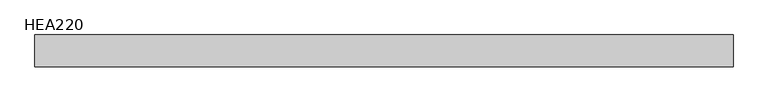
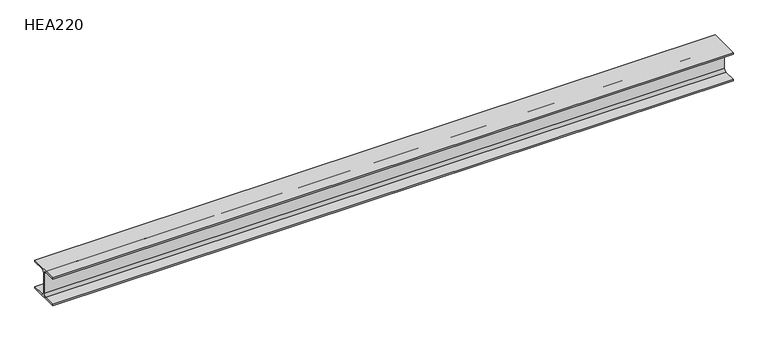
"""IFC4 building model written with IfcOpenShell, lengths in millimetres: beam geometry, HE-A : HEA220."""

from ifc_helpers import new_model, si_unit, point, frame, frame_2d, origin, place, context, project, spatial, polyline, circle_curve, trimmed, segment, composite_curve, outline, extrude, source, transform, mapped, element, save


def hea220_1345f282(model_context):
    return source(origin(), model_context, "Body", "SweptSolid", [
        extrude(outline(composite_curve([segment(polyline([(110.0, -94.0), (110.0, -105.0), (-110.0, -105.0), (-110.0, -94.0), (-21.5, -94.0)]), True, "CONTINUOUS"), segment(trimmed(circle_curve(frame_2d((-21.5, -76.0)), 18.0), [point((-21.5, -94.0))], [point((-3.5, -76.0))], True, "CARTESIAN"), True, "CONTINUOUS"), segment(polyline([(-3.5, -76.0), (-3.5, 76.0)]), True, "CONTINUOUS"), segment(trimmed(circle_curve(frame_2d((-21.5, 76.0)), 18.0), [point((-3.5, 76.0))], [point((-21.5, 94.0))], True, "CARTESIAN"), True, "CONTINUOUS"), segment(polyline([(-21.5, 94.0), (-110.0, 94.0), (-110.0, 105.0), (110.0, 105.0), (110.0, 94.0), (21.5, 94.0)]), True, "CONTINUOUS"), segment(trimmed(circle_curve(frame_2d((21.5, 76.0)), 18.0), [point((21.5, 94.0))], [point((3.5, 76.0))], True, "CARTESIAN"), True, "CONTINUOUS"), segment(polyline([(3.5, 76.0), (3.5, -76.0)]), True, "CONTINUOUS"), segment(trimmed(circle_curve(frame_2d((21.5, -76.0)), 18.0), [point((3.5, -76.0))], [point((21.5, -94.0))], True, "CARTESIAN"), True, "CONTINUOUS"), segment(polyline([(21.5, -94.0), (110.0, -94.0)]), True, "CONTINUOUS")], self_intersect=False)), frame((-2413.5, 0.0, 0.0), z_axis=(1.0, 0.0, 0.0), x_axis=(0.0, 1.0, 0.0)), (0.0, 0.0, 1.0), 4827.0),
    ])


if __name__ == "__main__":
    model = new_model("IFC4")
    model_context = context("Model", 3, world=origin())
    ifc_project = project(units=[si_unit("LENGTHUNIT", "METRE", prefix="MILLI")], contexts=[model_context])
    site = spatial("IfcSite", under=ifc_project)
    building = spatial("IfcBuilding", under=site)
    placement = place(None, origin())
    hea220_shape = hea220_1345f282(model_context)
    element("IfcBeam", 1, ObjectType="HE-A : HEA220", at=placement, inside=building, context=model_context, shape_type="MappedRepresentation", body=[
        mapped(hea220_shape, transform((0.0, 0.0, 0.0), x_axis=(1.0, 0.0, 0.0), y_axis=(0.0, 1.0, 0.0), z_axis=(0.0, 0.0, 1.0))),
    ])
    save(model, "model.ifc")
